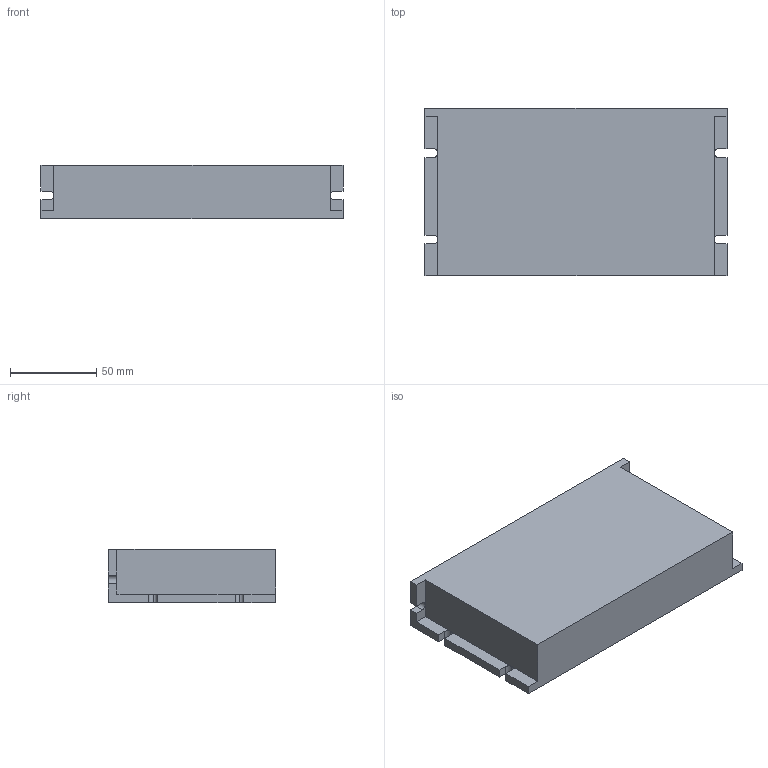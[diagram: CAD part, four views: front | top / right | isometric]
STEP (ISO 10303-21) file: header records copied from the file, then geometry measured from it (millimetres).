
FILE_DESCRIPTION (( 'STEP AP214' ), '1' );
FILE_NAME ('R60X3.STEP', '2021-05-14T07:14:29', ( '' ), ( '' ), 'SwSTEP 2.0', 'SolidWorks 2014', '' );
FILE_SCHEMA (( 'AUTOMOTIVE_DESIGN' ));
Length unit declared in the file: millimetre
Products named in the file (1): R60X3
Bounding box: 175 x 97 x 31 mm (x, y, z)
Volume: 489300.5 mm3; surface area: 50781.8 mm2
Topology: 1 solids, 1 shells, 44 faces, 118 edges, 76 vertices
Faces by surface type: plane 36, cylinder 8
Entity records: 1392 total; most frequent: CARTESIAN_POINT 239, ORIENTED_EDGE 236, DIRECTION 228, EDGE_CURVE 118, LINE 98, VECTOR 98, VERTEX_POINT 76, AXIS2_PLACEMENT_3D 65
